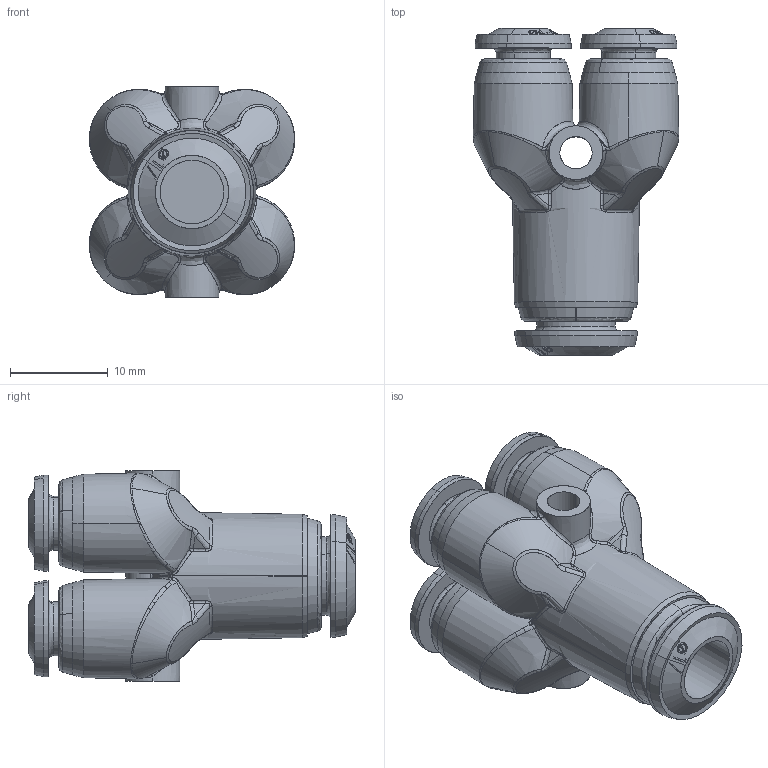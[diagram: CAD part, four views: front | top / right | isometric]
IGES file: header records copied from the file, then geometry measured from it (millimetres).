
Start section: SolidWorks IGES file using analytic representation for surfaces
Global section: file name: K:\Disegni Esecutivi\ALPHA TECHNOLOGIES\85000\Assiemi-85000\85330\IGES\8533000001A.IGS; native system: SolidWorks 2016; preprocessor: SolidWorks 2016; author: cad06; date: 191011.083840; units: millimetre
Bounding box: 21 x 33.4 x 21.5 mm (x, y, z)
Surface area: 4659.6 mm2 (no closed solid volume)
Topology: 0 solids, 0 shells, 844 faces, 7955 edges, 7951 vertices
Faces by surface type: bspline 680, revolution 164
